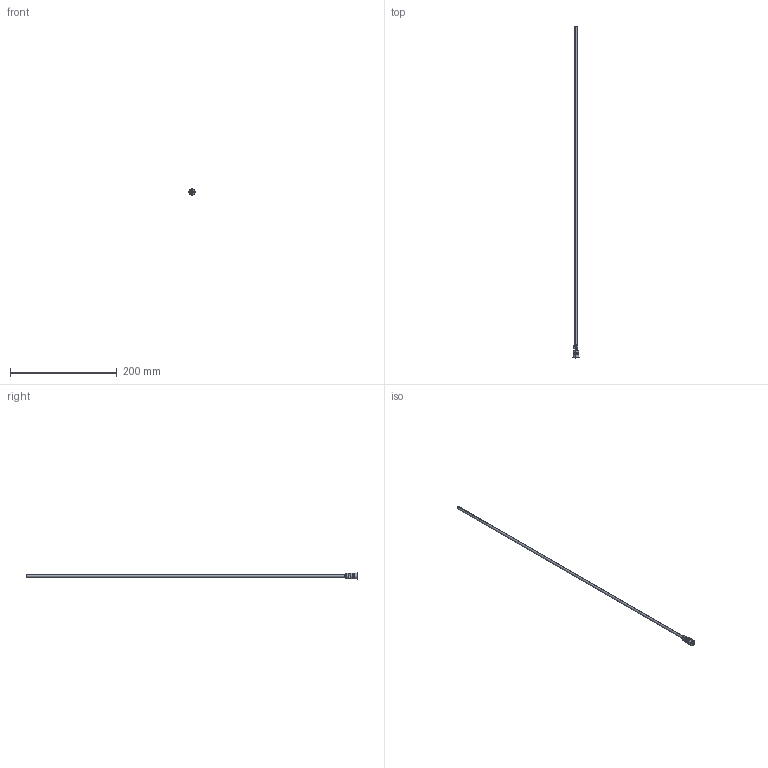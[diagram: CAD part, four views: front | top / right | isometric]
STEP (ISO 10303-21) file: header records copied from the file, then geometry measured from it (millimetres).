
FILE_DESCRIPTION (( 'STEP AP203' ), '1' );
FILE_NAME ('RF-10x600-5.STEP', '2010-10-20T09:59:33', ( ' ' ), ( ' ' ), 'SwSTEP 2.0', 'SolidWorks 2005204', '' );
FILE_SCHEMA (( 'CONFIG_CONTROL_DESIGN' ));
Length unit declared in the file: millimetre
Products named in the file (1): RF-10x600-5
Bounding box: 11.8 x 622.5 x 11.8 mm (x, y, z)
Volume: 3585 mm3; surface area: 19216.5 mm2
Topology: 1 solids, 1 shells, 68 faces, 163 edges, 104 vertices
Faces by surface type: plane 27, cylinder 25, cone 12, torus 4
Entity records: 2084 total; most frequent: CARTESIAN_POINT 370, DIRECTION 367, ORIENTED_EDGE 326, EDGE_CURVE 163, AXIS2_PLACEMENT_3D 145, VERTEX_POINT 104, VECTOR 77, LINE 77
